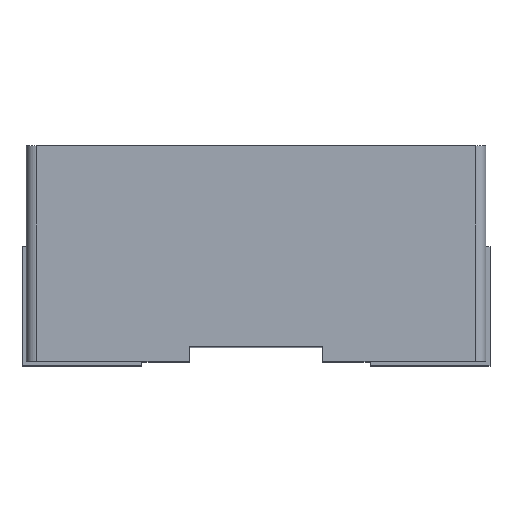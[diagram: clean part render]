
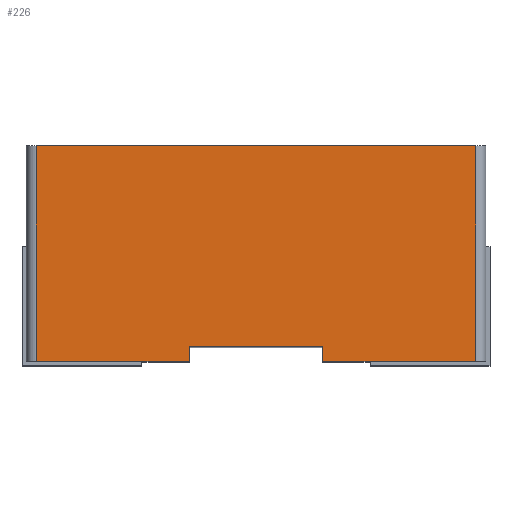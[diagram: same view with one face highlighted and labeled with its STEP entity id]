
A CAD part, top view. The second image highlights one B-rep face of the part: STEP entity #226.
In plain terms, the highlighted planar face has unit normal (0, 0, 1).
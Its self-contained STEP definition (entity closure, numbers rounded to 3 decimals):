
#13 = VERTEX_POINT ( 'NONE', #227 ) ;
#24 = DIRECTION ( 'NONE',  ( 1., 0., 0. ) ) ;
#28 = LINE ( 'NONE', #730, #367 ) ;
#44 = ORIENTED_EDGE ( 'NONE', *, *, #809, .T. ) ;
#68 = DIRECTION ( 'NONE',  ( -1., 0., 0. ) ) ;
#93 = VERTEX_POINT ( 'NONE', #156 ) ;
#107 = ORIENTED_EDGE ( 'NONE', *, *, #784, .T. ) ;
#108 = VECTOR ( 'NONE', #560, 1000. ) ;
#111 = PLANE ( 'NONE',  #493 ) ;
#123 = CARTESIAN_POINT ( 'NONE',  ( 3.2, -0.896, 0.364 ) ) ;
#131 = LINE ( 'NONE', #482, #272 ) ;
#142 = CARTESIAN_POINT ( 'NONE',  ( 0.07, 0.604, 0.364 ) ) ;
#151 = DIRECTION ( 'NONE',  ( 0., 1., 0. ) ) ;
#156 = CARTESIAN_POINT ( 'NONE',  ( 1.135, -0.896, 0.364 ) ) ;
#172 = CARTESIAN_POINT ( 'NONE',  ( 0.07, 0.604, 0.364 ) ) ;
#192 = VERTEX_POINT ( 'NONE', #370 ) ;
#195 = LINE ( 'NONE', #654, #835 ) ;
#200 = VERTEX_POINT ( 'NONE', #861 ) ;
#226 = ADVANCED_FACE ( 'NONE', ( #446 ), #111, .F. ) ;
#227 = CARTESIAN_POINT ( 'NONE',  ( 2.065, -0.796, 0.364 ) ) ;
#228 = ORIENTED_EDGE ( 'NONE', *, *, #623, .T. ) ;
#246 = CARTESIAN_POINT ( 'NONE',  ( 3.13, -0.896, 0.364 ) ) ;
#272 = VECTOR ( 'NONE', #547, 1000. ) ;
#313 = VERTEX_POINT ( 'NONE', #734 ) ;
#340 = VERTEX_POINT ( 'NONE', #246 ) ;
#345 = VECTOR ( 'NONE', #721, 1000. ) ;
#350 = EDGE_CURVE ( 'NONE', #13, #313, #28, .T. ) ;
#367 = VECTOR ( 'NONE', #459, 1000. ) ;
#370 = CARTESIAN_POINT ( 'NONE',  ( 3.13, 0.604, 0.364 ) ) ;
#410 = ORIENTED_EDGE ( 'NONE', *, *, #753, .T. ) ;
#445 = LINE ( 'NONE', #142, #108 ) ;
#446 = FACE_OUTER_BOUND ( 'NONE', #529, .T. ) ;
#454 = EDGE_CURVE ( 'NONE', #93, #902, #610, .T. ) ;
#459 = DIRECTION ( 'NONE',  ( 0., -1., 0. ) ) ;
#463 = DIRECTION ( 'NONE',  ( 0., 1., 0. ) ) ;
#482 = CARTESIAN_POINT ( 'NONE',  ( 3.2, -0.896, 0.364 ) ) ;
#493 = AXIS2_PLACEMENT_3D ( 'NONE', #527, #523, #463 ) ;
#502 = CARTESIAN_POINT ( 'NONE',  ( 3.2, -0.796, 0.364 ) ) ;
#508 = ORIENTED_EDGE ( 'NONE', *, *, #350, .T. ) ;
#521 = DIRECTION ( 'NONE',  ( 0., 1., 0. ) ) ;
#523 = DIRECTION ( 'NONE',  ( 0., 0., -1. ) ) ;
#526 = CARTESIAN_POINT ( 'NONE',  ( 0.07, -0.896, 0.364 ) ) ;
#527 = CARTESIAN_POINT ( 'NONE',  ( 3.2, 0.604, 0.364 ) ) ;
#529 = EDGE_LOOP ( 'NONE', ( #898, #107, #44, #228, #690, #823, #410, #508 ) ) ;
#532 = VECTOR ( 'NONE', #151, 1000. ) ;
#535 = EDGE_CURVE ( 'NONE', #340, #313, #131, .T. ) ;
#540 = LINE ( 'NONE', #595, #345 ) ;
#547 = DIRECTION ( 'NONE',  ( -1., 0., 0. ) ) ;
#560 = DIRECTION ( 'NONE',  ( 0., -1., 0. ) ) ;
#595 = CARTESIAN_POINT ( 'NONE',  ( 3.2, 0.604, 0.364 ) ) ;
#610 = LINE ( 'NONE', #123, #766 ) ;
#623 = EDGE_CURVE ( 'NONE', #816, #902, #445, .T. ) ;
#633 = CARTESIAN_POINT ( 'NONE',  ( 3.13, 0.604, 0.364 ) ) ;
#654 = CARTESIAN_POINT ( 'NONE',  ( 1.135, 0.604, 0.364 ) ) ;
#670 = LINE ( 'NONE', #502, #679 ) ;
#679 = VECTOR ( 'NONE', #24, 1000. ) ;
#690 = ORIENTED_EDGE ( 'NONE', *, *, #454, .F. ) ;
#721 = DIRECTION ( 'NONE',  ( -1., 0., 0. ) ) ;
#730 = CARTESIAN_POINT ( 'NONE',  ( 2.065, 0.604, 0.364 ) ) ;
#734 = CARTESIAN_POINT ( 'NONE',  ( 2.065, -0.896, 0.364 ) ) ;
#753 = EDGE_CURVE ( 'NONE', #200, #13, #670, .T. ) ;
#766 = VECTOR ( 'NONE', #68, 1000. ) ;
#784 = EDGE_CURVE ( 'NONE', #340, #192, #817, .T. ) ;
#809 = EDGE_CURVE ( 'NONE', #192, #816, #540, .T. ) ;
#816 = VERTEX_POINT ( 'NONE', #172 ) ;
#817 = LINE ( 'NONE', #633, #532 ) ;
#823 = ORIENTED_EDGE ( 'NONE', *, *, #885, .T. ) ;
#835 = VECTOR ( 'NONE', #521, 1000. ) ;
#861 = CARTESIAN_POINT ( 'NONE',  ( 1.135, -0.796, 0.364 ) ) ;
#885 = EDGE_CURVE ( 'NONE', #93, #200, #195, .T. ) ;
#898 = ORIENTED_EDGE ( 'NONE', *, *, #535, .F. ) ;
#902 = VERTEX_POINT ( 'NONE', #526 ) ;
